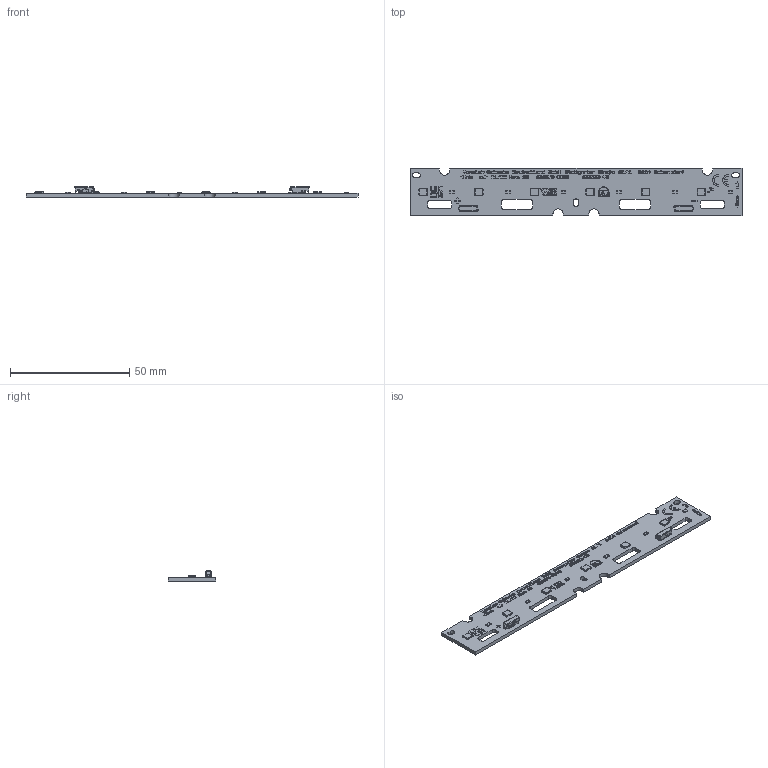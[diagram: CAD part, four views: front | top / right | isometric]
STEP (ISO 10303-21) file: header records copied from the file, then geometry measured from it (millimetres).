
FILE_DESCRIPTION(('Creo Elements/Direct Modeling STEP Export'),'2;1');
FILE_NAME('3D-Model__MLC_SC_W2_140_BTS_6R_yzz_G3 (WU-M-731-R)_STC.stp','2025-04-29T10:44:58',(''),(''),'PTC Creo Elements/Direct Modeling STEP processor for AP214 (Solid Model)','PTC Creo Elements/Direct Modeling 19.0E 27-Jun-2016 (C) Parametric Technology GmbH','');
FILE_SCHEMA(('AUTOMOTIVE_DESIGN { 1 0 10303 214 1 1 1 1 }'));
Length unit declared in the file: millimetre
Products named in the file (147): p1.3; p1.2; p1.1; p1; Print.113; Print.114; Print.108; Print.111; Print.109; Print.112; Print.105; Print.107; Print.115; Print.106; Print.110; Print.83; Print.89; Print.85; Print.90; Print.86; Print.93; Print.84; Print.87; Print.91; Print.92; Print.88; Print.1; Print; Print.2; Print.4; Print.3; Print.5; Print.6; Print.7; Print.26; Print.19; Print.21; Print.25; Print.23; Print.28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
Assembly tree (144 placements, depth 2):
  p1.3
  p1.2
  p1.1
  p1
  Plate-Print
    Print.65
    Print.67
    Print.68
    Print.64
    Print.69
    Print.71
    Print.63
    Print.70
    Print.62
    Print.66
    Print.61
    Print.36
    Print.33
    Print.49
    Print.38
    Print.37
    Print.34
    Print.30
    Print.31
    Print.32
    Print.35
    Print.124
    Print.118
    Print.119
    Print.122
    Print.121
    Print.125
    Print.116
    Print.120
    Print.117
    Print.126
    Print.123
    Print.51
    Print.60
    Print.55
    Print.58
    Print.56
    Print.54
    Print.52
    Print.57
    Print.50
    Print.59
    Print.53
    Print.44
    Print.41
    Print.39
    Print.42
    Print.46
    Print.43
    Print.40
    Print.48
    Print.45
    Print.47
    Print.104
    Print.98
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Bounding box: 139 x 20 x 4.3 mm (x, y, z)
Volume: 4143.3 mm3; surface area: 6581.5 mm2
Topology: 145 solids, 145 shells, 3896 faces, 10736 edges, 7138 vertices
Faces by surface type: plane 2859, cylinder 1037
Entity records: 130814 total; most frequent: CARTESIAN_POINT 18132, ORIENTED_EDGE 17698, DIRECTION 17357, EDGE_CURVE 8849, VECTOR 7059, LINE 7059, VERTEX_POINT 5895, AXIS2_PLACEMENT_3D 5149
